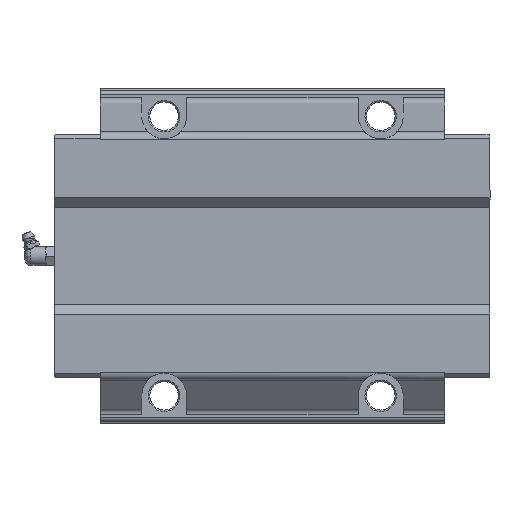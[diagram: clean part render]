
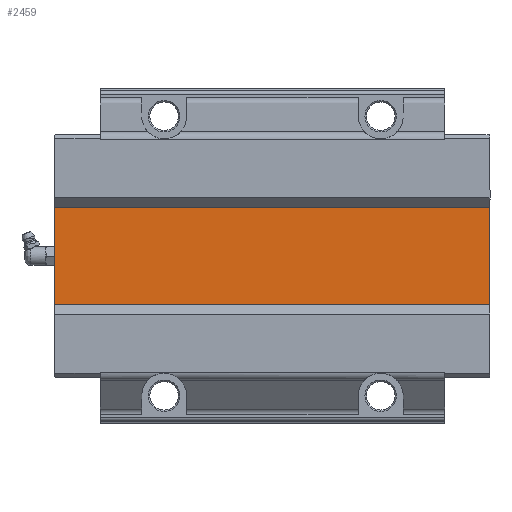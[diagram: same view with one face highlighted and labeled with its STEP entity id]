
A CAD part, front view. The second image highlights one B-rep face of the part: STEP entity #2459.
In plain terms, the highlighted planar face has unit normal (0, -1, 0).
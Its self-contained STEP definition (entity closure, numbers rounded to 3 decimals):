
#21 = DIRECTION ( 'NONE',  ( 0., 0., -1. ) ) ;
#45 = VERTEX_POINT ( 'NONE', #3477 ) ;
#89 = CARTESIAN_POINT ( 'NONE',  ( 339.5, 53., -26.23 ) ) ;
#254 = VECTOR ( 'NONE', #3107, 1000. ) ;
#655 = CARTESIAN_POINT ( 'NONE',  ( 339.5, 53., 26.23 ) ) ;
#718 = DIRECTION ( 'NONE',  ( 0., 1., 0. ) ) ;
#1226 = CARTESIAN_POINT ( 'NONE',  ( 339.5, 53., -26.23 ) ) ;
#1403 = VERTEX_POINT ( 'NONE', #5345 ) ;
#1441 = EDGE_CURVE ( 'NONE', #45, #2474, #1978, .T. ) ;
#1445 = DIRECTION ( 'NONE',  ( 0., 0., 1. ) ) ;
#1467 = CARTESIAN_POINT ( 'NONE',  ( 560.5, 53., 26.23 ) ) ;
#1912 = EDGE_CURVE ( 'NONE', #1403, #45, #4425, .T. ) ;
#1940 = CARTESIAN_POINT ( 'NONE',  ( 339.5, 53., 26.23 ) ) ;
#1978 = LINE ( 'NONE', #89, #4108 ) ;
#2364 = AXIS2_PLACEMENT_3D ( 'NONE', #655, #718, #5317 ) ;
#2459 = ADVANCED_FACE ( 'NONE', ( #5398 ), #3771, .F. ) ;
#2474 = VERTEX_POINT ( 'NONE', #1226 ) ;
#2590 = CARTESIAN_POINT ( 'NONE',  ( 339.5, 53., 26.23 ) ) ;
#2780 = EDGE_CURVE ( 'NONE', #4688, #1403, #6540, .T. ) ;
#3107 = DIRECTION ( 'NONE',  ( 1., 0., 0. ) ) ;
#3406 = LINE ( 'NONE', #1940, #6512 ) ;
#3477 = CARTESIAN_POINT ( 'NONE',  ( 560.5, 53., -26.23 ) ) ;
#3771 = PLANE ( 'NONE',  #2364 ) ;
#3964 = ORIENTED_EDGE ( 'NONE', *, *, #1912, .F. ) ;
#4108 = VECTOR ( 'NONE', #4749, 1000. ) ;
#4354 = CARTESIAN_POINT ( 'NONE',  ( 339.5, 53., 26.23 ) ) ;
#4425 = LINE ( 'NONE', #1467, #6714 ) ;
#4688 = VERTEX_POINT ( 'NONE', #4354 ) ;
#4749 = DIRECTION ( 'NONE',  ( -1., 0., 0. ) ) ;
#4925 = EDGE_CURVE ( 'NONE', #2474, #4688, #3406, .T. ) ;
#5094 = ORIENTED_EDGE ( 'NONE', *, *, #2780, .F. ) ;
#5317 = DIRECTION ( 'NONE',  ( 0., 0., 1. ) ) ;
#5345 = CARTESIAN_POINT ( 'NONE',  ( 560.5, 53., 26.23 ) ) ;
#5398 = FACE_OUTER_BOUND ( 'NONE', #5766, .T. ) ;
#5738 = ORIENTED_EDGE ( 'NONE', *, *, #4925, .F. ) ;
#5766 = EDGE_LOOP ( 'NONE', ( #5094, #5738, #6664, #3964 ) ) ;
#6512 = VECTOR ( 'NONE', #1445, 1000. ) ;
#6540 = LINE ( 'NONE', #2590, #254 ) ;
#6664 = ORIENTED_EDGE ( 'NONE', *, *, #1441, .F. ) ;
#6714 = VECTOR ( 'NONE', #21, 1000. ) ;
